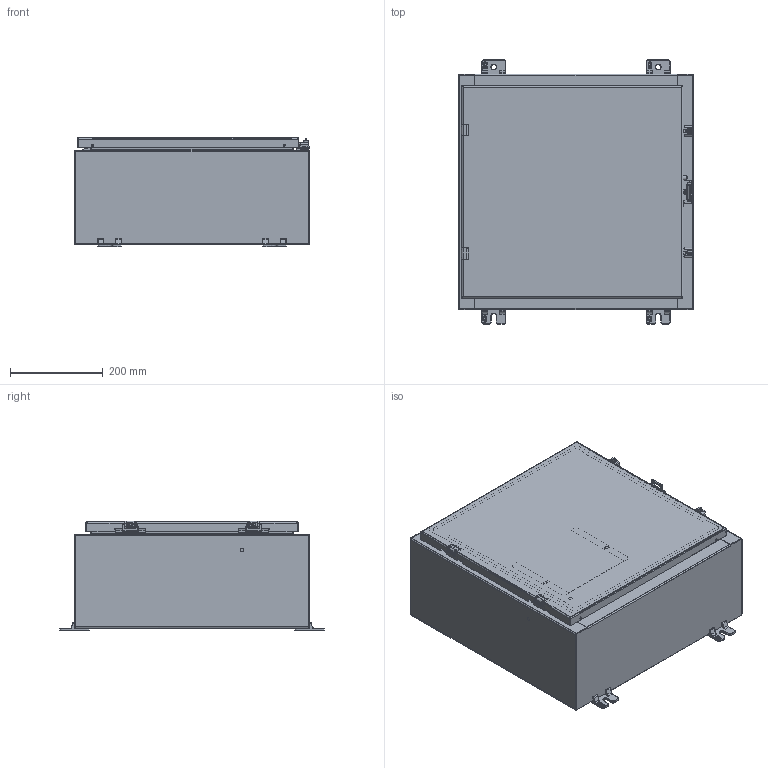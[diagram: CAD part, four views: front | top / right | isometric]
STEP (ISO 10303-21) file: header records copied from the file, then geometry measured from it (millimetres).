
FILE_DESCRIPTION((''),'2;1');
FILE_NAME('MODEL-309_ASM','2024-09-26T11:11:56',('richards'),('SAGINAW CONTROL & ENGINEERING'),'CREO PARAMETRIC BY PTC INC, 2021284','CREO PARAMETRIC BY PTC INC, 2021284','');
FILE_SCHEMA(('AUTOMOTIVE_DESIGN { 1 0 10303 214 1 1 1 1 }'));
Length unit declared in the file: inch
Products named in the file (35): MODEL-309-BDY; MODEL-309-TP; MODEL-309-BTM; MODEL-309-DR; 100837; 100882; 111541; MODEL-309-DOOR-GASKET; 126391; 126391_ASM; 126393; 102483; 101226; 101376; 102140; 115117; MODEL-309-DOOR-ASSY_ASM; 128630; 100059; 128630_ASM; 100921; 128631; 128631_ASM; 101651; 121452; 120132_BASE; 120132_CLAMP; 120132_SCREW; 120132_SPRING; 120132_ASM; 120133; SUBPANEL; 100904; SUBPANEL-SUBASSEMBLY_ASM; MODEL-309_ASM
Assembly tree (65 placements, depth 4):
  MODEL-309_ASM
    MODEL-309-BDY
    MODEL-309-TP
    MODEL-309-BTM
    MODEL-309-DOOR-ASSY_ASM
      MODEL-309-DR
      100837  x3
      100882  x2
      111541
      MODEL-309-DOOR-GASKET
      126391_ASM  x2
        126391
      126393  x2
      102483  x7
      101226  x2
      101376  x2
      102140  x2
      115117
    128630_ASM  x2
      128630
      100059
    100921  x4
    128631_ASM  x2
      128631
      100059
    100837
    101651  x4
    121452
    120132_ASM  x2
      120132_BASE
      120132_CLAMP
      120132_SCREW
      120132_SPRING
    100882  x3
    120133
    SUBPANEL-SUBASSEMBLY_ASM
      SUBPANEL
      100904  x4
Bounding box: 508 x 571.5 x 237.31 mm (x, y, z)
Volume: 2917025.9 mm3; surface area: 2672956.6 mm2
Topology: 65 solids, 65 shells, 4698 faces, 12019 edges, 7540 vertices
Faces by surface type: plane 1717, cylinder 1285, bspline 929, torus 526, cone 140, sphere 101
Entity records: 111839 total; most frequent: CARTESIAN_POINT 35331, ORIENTED_EDGE 11300, DIRECTION 10926, PRESENTATION_STYLE_ASSIGNMENT 5783, STYLED_ITEM 5783, CURVE_STYLE 5650, EDGE_CURVE 5650, AXIS2_PLACEMENT_3D 4075
